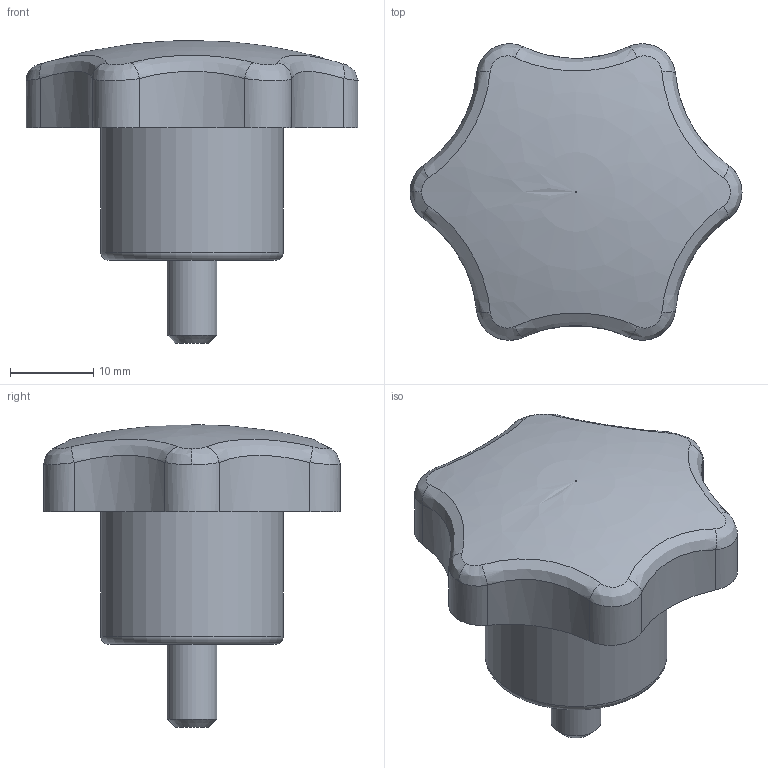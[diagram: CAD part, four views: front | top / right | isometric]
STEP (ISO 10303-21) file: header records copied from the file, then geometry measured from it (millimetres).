
FILE_DESCRIPTION( ('This file contains a STEP AP42 implementation' ,'as created by ZW3D STEP Interface translator.') ,'2;1' );
FILE_NAME( 'Rekojesc gwiazdowa z trzpieniem gwintowanym 40.stp' ,'26 326.133223', (''), ('ZWCAD Software Co.'), 'Version 1.0', 'ZW3D to STEP translator', '' );
FILE_SCHEMA(('AP242_MANAGED_MODEL_BASED_3D_ENGINEERING_MIM_LF { 1 0 10303 442 1 1 4 }'));
Length unit declared in the file: millimetre
Products named in the file (1): 0
Bounding box: 40 x 35.71 x 36.5 mm (x, y, z)
Volume: 15403.3 mm3; surface area: 4961.4 mm2
Topology: 2 solids, 2 shells, 51 faces, 114 edges, 71 vertices
Faces by surface type: plane 20, cylinder 15, bspline 14, torus 1, cone 1
Full cylindrical faces by diameter (mm): 6 x2, 22 x1
Entity records: 2353 total; most frequent: CARTESIAN_POINT 1277, ORIENTED_EDGE 228, DIRECTION 174, EDGE_CURVE 114, VERTEX_POINT 71, AXIS2_PLACEMENT_3D 61, EDGE_LOOP 55, VECTOR 52
